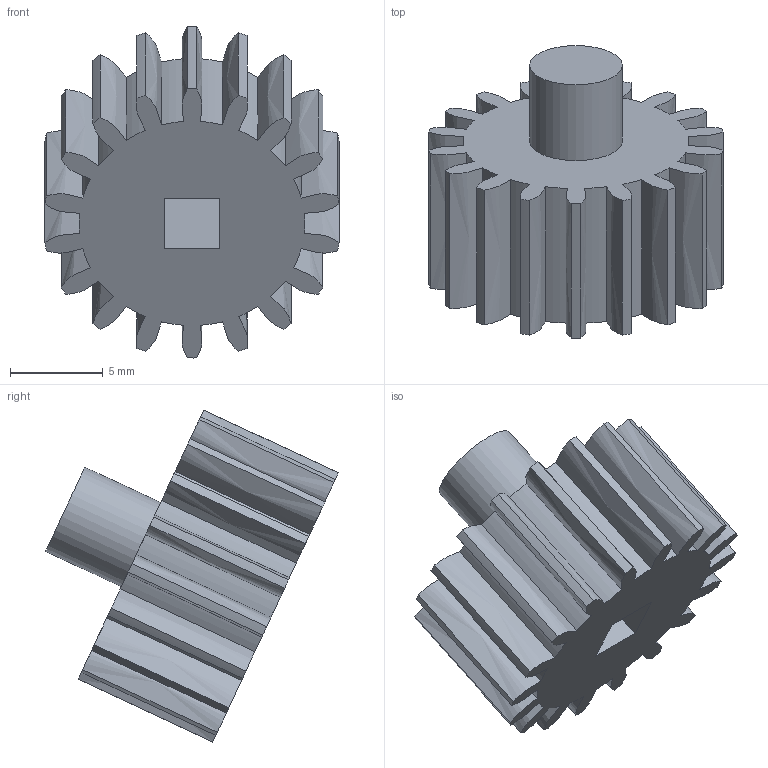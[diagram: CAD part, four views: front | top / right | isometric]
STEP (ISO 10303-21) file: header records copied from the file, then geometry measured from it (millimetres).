
FILE_DESCRIPTION(/* description */ ('STEP AP242 Edition 2','CAx-IF Rec.Pracs.---Representation and Presentation of Product Manufacturing Information (PMI)---4.0---2014-10-13','CAx-IF Rec.Pracs.---3D Tessellated Geometry---0.4---2014-09-14','2;1','CAx-IF Rec.Pracs.---User Defined Attributes---1.5---2016-08-15'),/* implementation_level */ '2;1');
FILE_NAME(/* name */ 'main - Spur gear (18 teeth)',/* time_stamp */ '2026-11-08T20:03:45Z',/* author */ (''),/* organization */ (''),/* preprocessor_version */ 'ST-DEVELOPER v20',/* originating_system */ 'ONSHAPE BY PTC INC, 1.223',/* authorisation */ ' ');
FILE_SCHEMA (('AP242_MANAGED_MODEL_BASED_3D_ENGINEERING_MIM_LF { 1 0 10303 442 3 1 4 }'));
Length unit declared in the file: metre
Products named in the file (1): Spur gear (18 teeth)
Bounding box: 15.84 x 15.77 x 17.88 mm (x, y, z)
Volume: 1203 mm3; surface area: 1281.5 mm2
Topology: 1 solids, 1 shells, 81 faces, 231 edges, 154 vertices
Faces by surface type: cylinder 37, bspline 36, plane 8
Full cylindrical faces by diameter (mm): 5 x1
Entity records: 5268 total; most frequent: CARTESIAN_POINT 3310, ORIENTED_EDGE 460, DIRECTION 324, EDGE_CURVE 230, VERTEX_POINT 154, AXIS2_PLACEMENT_3D 120, LINE 84, VECTOR 84
